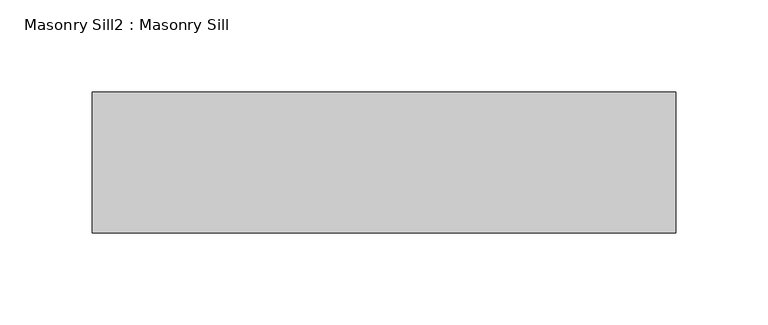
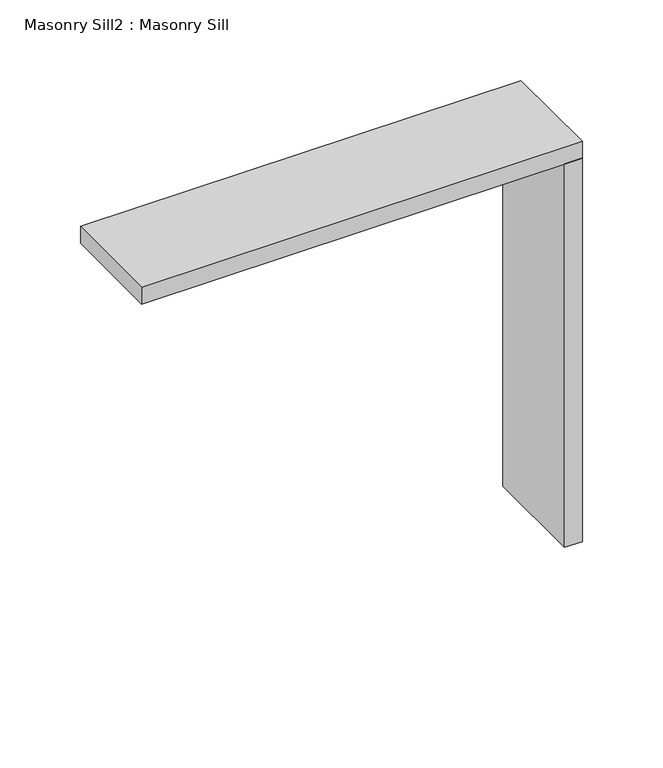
"""IFC4 building model written with IfcOpenShell, lengths in millimetres: proxy geometry, Masonry Sill2 : Masonry Sill."""

from ifc_helpers import new_model, si_unit, frame, origin, origin_with_axes, place, context, project, spatial, polyline, outline, extrude, source, transform, mapped, element, save


def masonry_sill2_masonry_sill_6bf34fb1(model_context):
    return source(origin(), model_context, "Body", "SweptSolid", [
        extrude(outline(polyline([(26855.8851773, 656.2066297), (26843.1851773, 656.2066297), (26843.1851773, 732.4066297), (26855.8851773, 732.4066297), (26855.8851773, 656.2066297)])), origin_with_axes(), (0.0, 0.0, 1.0), 290.5125),
        extrude(outline(polyline([(26539.9726773, 656.2066297), (26539.9726773, 732.4066297), (26855.8851773, 732.4066297), (26855.8851773, 656.2066297), (26539.9726773, 656.2066297)])), frame((0.0, 0.0, 290.5125), z_axis=(0.0, 0.0, 1.0), x_axis=(1.0, 0.0, 0.0)), (0.0, 0.0, 1.0), 12.7),
    ])


if __name__ == "__main__":
    model = new_model("IFC4")
    model_context = context("Model", 3, world=origin())
    ifc_project = project(units=[si_unit("LENGTHUNIT", "METRE", prefix="MILLI")], contexts=[model_context])
    site = spatial("IfcSite", under=ifc_project)
    building = spatial("IfcBuilding", under=site)
    placement = place(None, origin())
    masonry_sill2_masonry_sill_shape = masonry_sill2_masonry_sill_6bf34fb1(model_context)
    element("IfcBuildingElementProxy", 1, Name="Masonry Sill2 : Masonry Sill", ObjectType="Masonry Sill2 : Masonry Sill", at=placement, inside=building, context=model_context, shape_type="MappedRepresentation", body=[
        mapped(masonry_sill2_masonry_sill_shape, transform((0.0, 0.0, 0.0), x_axis=(1.0, 0.0, 0.0), y_axis=(0.0, 1.0, 0.0), z_axis=(0.0, 0.0, 1.0))),
    ])
    save(model, "model.ifc")
